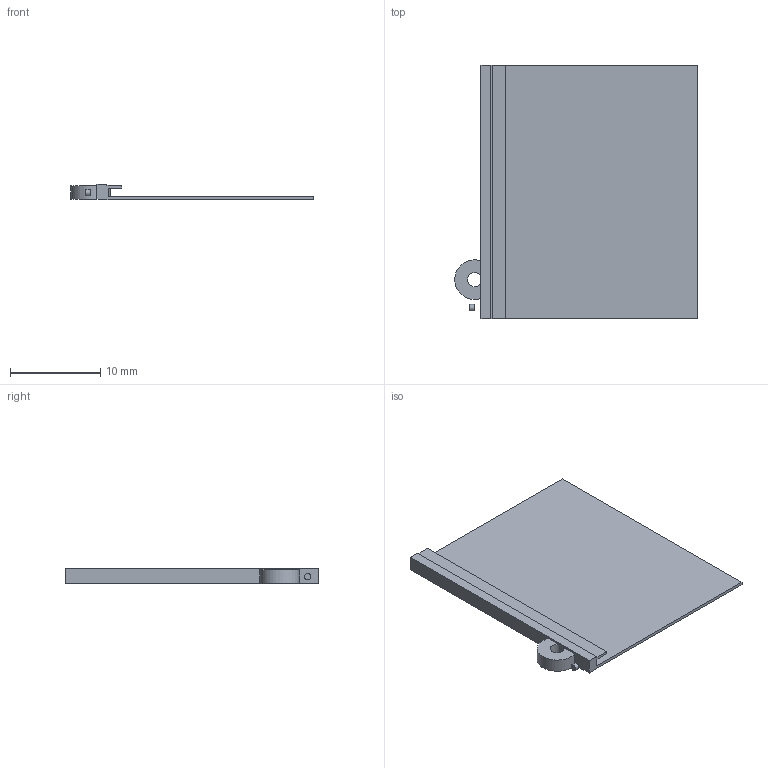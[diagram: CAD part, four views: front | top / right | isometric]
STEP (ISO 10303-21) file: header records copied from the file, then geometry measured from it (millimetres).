
FILE_DESCRIPTION(('Open CASCADE Model'),'2;1');
FILE_NAME('Open CASCADE Shape Model','2026-10-24T14:45:54',('Author'),( 'Open CASCADE'),'Open CASCADE STEP processor 7.7','Open CASCADE 7.7' ,'Unknown');
FILE_SCHEMA(('AUTOMOTIVE_DESIGN { 1 0 10303 214 1 1 1 1 }'));
Length unit declared in the file: millimetre
Products named in the file (3): Open CASCADE STEP translator 7.7 7; Open CASCADE STEP translator 7.7 7.1; Open CASCADE STEP translator 7.7 7.2
Assembly tree (2 placements, depth 2):
  Open CASCADE STEP translator 7.7 7
    Open CASCADE STEP translator 7.7 7.1
    Open CASCADE STEP translator 7.7 7.2
Bounding box: 26.87 x 28.07 x 1.73 mm (x, y, z)
Volume: 307.6 mm3; surface area: 1581.1 mm2
Topology: 2 solids, 2 shells, 26 faces, 69 edges, 46 vertices
Faces by surface type: plane 22, cylinder 4
Full cylindrical faces by diameter (mm): 0.7 x1
Entity records: 1727 total; most frequent: CARTESIAN_POINT 328, DIRECTION 242, LINE 163, VECTOR 163, ORIENTED_EDGE 138, PCURVE 138, DEFINITIONAL_REPRESENTATION 138, EDGE_CURVE 69
